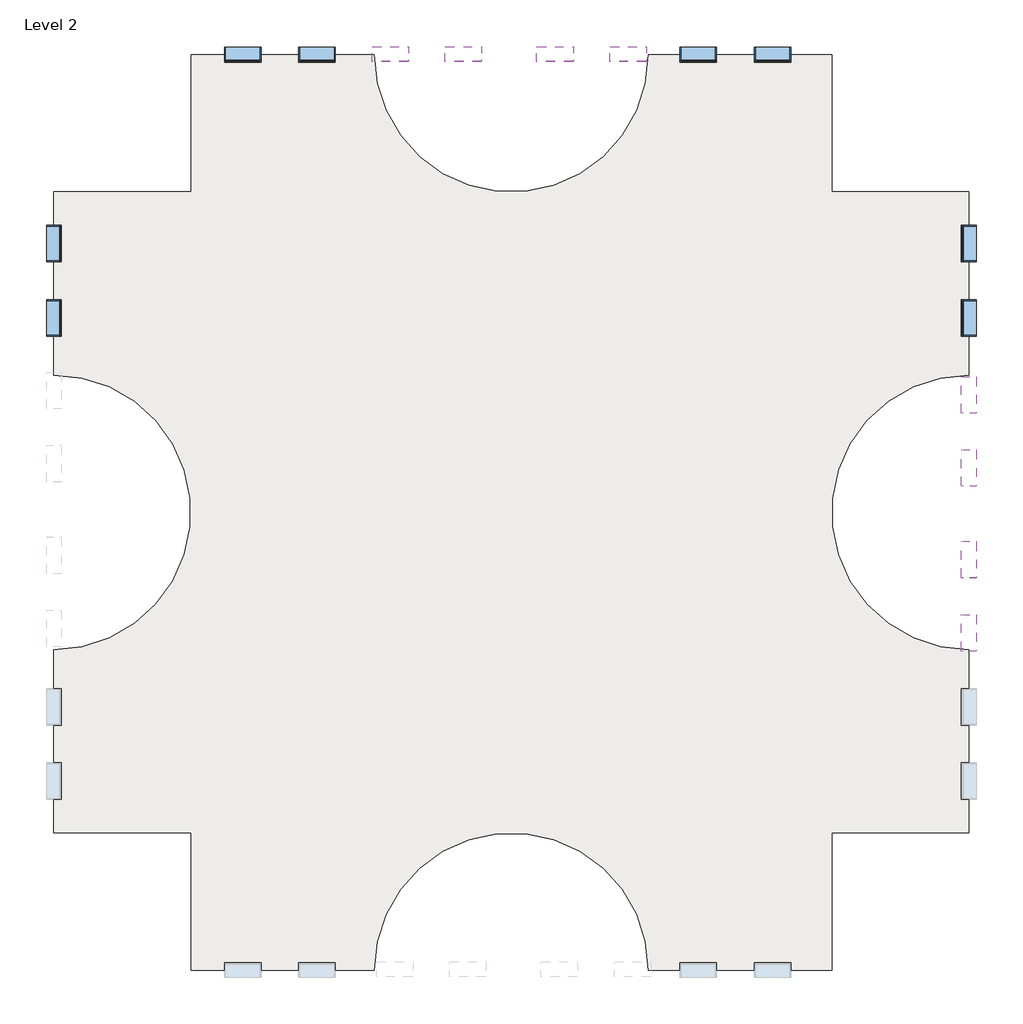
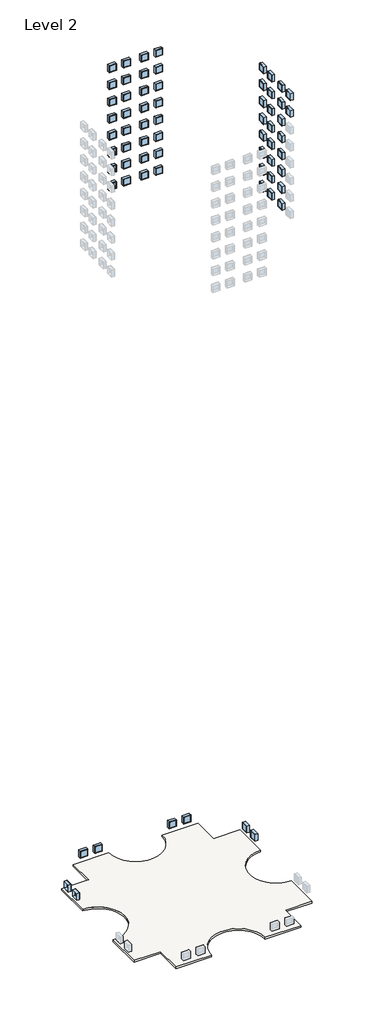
# One storey, part 2 of 2: 66 windows, 2 slabs.
"""IFC4 building model written with IfcOpenShell, lengths in millimetres."""

import ifcopenshell
import ifcopenshell.guid

model = None  # the IFC model being written
_history = None  # IfcOwnerHistory: only IFC2X3 demands one
_inside = {}  # id of a spatial element -> (the spatial element, [elements in it])
_under = {}  # id of a project, library or spatial element -> (it, [spatial elements below it])
_declared = {}  # id of a project -> (the project, [libraries it declares])
_typed = {}  # id of a type object -> (the type object, [elements of that type])
_made_of = {}  # id of a material, layer set ... -> (it, [elements and type objects made of it])


def new_model(schema):
    """Start an empty IFC model of exactly this schema.

    Asked for "IFC4X3", IfcOpenShell would pick the latest addendum, in which some entities
    have other attributes; the version numbers below select the first issue.
    IFC2X3 requires an IfcOwnerHistory on every rooted entity: one is made here for all.
    """
    global model, _history
    if schema == "IFC4X3":
        model = ifcopenshell.file(schema_version=(4, 3, 0, 0))
    else:
        model = ifcopenshell.file(schema=schema)
    _inside.clear()
    _under.clear()
    _declared.clear()
    _typed.clear()
    _made_of.clear()
    _history = None
    if model.schema == "IFC2X3":
        org = make("IfcOrganization", Name="unknown")
        user = make(
            "IfcPersonAndOrganization",
            ThePerson=make("IfcPerson", FamilyName="unknown"),
            TheOrganization=org,
        )
        app = make(
            "IfcApplication",
            ApplicationDeveloper=org,
            Version="unknown",
            ApplicationFullName="unknown",
            ApplicationIdentifier="unknown",
        )
        _history = make(
            "IfcOwnerHistory",
            OwningUser=user,
            OwningApplication=app,
            ChangeAction="ADDED",
            CreationDate=0,
        )
    return model


def make(cls, **values):
    """One entity of the class cls with the attributes given. An attribute that is None is left unset."""
    return model.create_entity(
        cls, **{name: value for name, value in values.items() if value is not None}
    )


def rooted(cls, **values):
    """An entity with a GlobalId (a new one), such as an element, a storey or a relation."""
    return make(cls, GlobalId=ifcopenshell.guid.new(), OwnerHistory=_history, **values)


def si_unit(unit_type, name, prefix=None):
    """IfcSIUnit, for example si_unit("LENGTHUNIT", "METRE", prefix="MILLI")."""
    return make("IfcSIUnit", UnitType=unit_type, Prefix=prefix, Name=name)


def assignment(units):
    """IfcUnitAssignment: the units of a project."""
    return None if units is None else make("IfcUnitAssignment", Units=units)


def point(xyz):
    """IfcCartesianPoint."""
    return None if xyz is None else make("IfcCartesianPoint", Coordinates=xyz)


def direction(xyz):
    """IfcDirection."""
    return None if xyz is None else make("IfcDirection", DirectionRatios=xyz)


def frame(location, z_axis=None, x_axis=None):
    """IfcAxis2Placement3D, a coordinate frame: its origin and axes. An axis left out is left unset."""
    return make(
        "IfcAxis2Placement3D",
        Location=point(location),
        Axis=direction(z_axis),
        RefDirection=direction(x_axis),
    )


def frame_2d(location, x_axis=None):
    """IfcAxis2Placement2D, a coordinate frame in the plane: its origin and x axis."""
    return make(
        "IfcAxis2Placement2D", Location=point(location), RefDirection=direction(x_axis)
    )


def origin():
    """The frame at (0, 0, 0) with its axes left unset."""
    return frame((0.0, 0.0, 0.0))


def place(relative_to, where):
    """IfcLocalPlacement: puts the frame where relative to a parent placement (None: the world)."""
    return make(
        "IfcLocalPlacement", PlacementRelTo=relative_to, RelativePlacement=where
    )


def context(
    kind, dimensions, precision=None, world=None, true_north=None, identifier=None
):
    """IfcGeometricRepresentationContext, for example the 3D "Model" context."""
    return make(
        "IfcGeometricRepresentationContext",
        ContextIdentifier=identifier,
        ContextType=kind,
        CoordinateSpaceDimension=dimensions,
        Precision=precision,
        WorldCoordinateSystem=world,
        TrueNorth=true_north,
    )


def project(units=None, contexts=None):
    """IfcProject with its units and contexts."""
    return rooted(
        "IfcProject",
        Name="project",
        RepresentationContexts=contexts,
        UnitsInContext=assignment(units),
    )


def spatial(cls, under=None, at=None, **own):
    """A site, building, storey or space (cls), placed at a placement, below another one or the project."""
    s = rooted(cls, ObjectPlacement=at, **own)
    if under is not None:
        _under.setdefault(under.id(), (under, []))[1].append(s)
    return s


def polyline(points):
    """IfcPolyline through the points."""
    return make("IfcPolyline", Points=[point(p) for p in points])


def circle_curve(where, radius):
    """IfcCircle in the frame where."""
    return make("IfcCircle", Position=where, Radius=radius)


def trimmed(basis, trim1, trim2, sense, master):
    """IfcTrimmedCurve: the piece of a basis curve between two trims."""
    return make(
        "IfcTrimmedCurve",
        BasisCurve=basis,
        Trim1=trim1,
        Trim2=trim2,
        SenseAgreement=sense,
        MasterRepresentation=master,
    )


def segment(curve, same_sense, transition):
    """IfcCompositeCurveSegment."""
    return make(
        "IfcCompositeCurveSegment",
        Transition=transition,
        SameSense=same_sense,
        ParentCurve=curve,
    )


def composite_curve(segments, self_intersect=None):
    """IfcCompositeCurve: segments joined end to end."""
    return make("IfcCompositeCurve", Segments=segments, SelfIntersect=self_intersect)


def outline(outer, holes=None, kind="AREA"):
    """IfcArbitraryClosedProfileDef: a profile drawn as a closed curve; with holes, ...WithVoids."""
    if holes is None:
        return make("IfcArbitraryClosedProfileDef", ProfileType=kind, OuterCurve=outer)
    return make(
        "IfcArbitraryProfileDefWithVoids",
        ProfileType=kind,
        OuterCurve=outer,
        InnerCurves=holes,
    )


def extrude(swept, where, along, depth):
    """IfcExtrudedAreaSolid: the profile swept, set in the frame where, extruded along a direction by depth."""
    return make(
        "IfcExtrudedAreaSolid",
        SweptArea=swept,
        Position=where,
        ExtrudedDirection=direction(along),
        Depth=depth,
    )


def shape(context_of_items, identifier, shape_type, items):
    """IfcShapeRepresentation: the items that make up one representation, for example the "Body"."""
    return make(
        "IfcShapeRepresentation",
        ContextOfItems=context_of_items,
        RepresentationIdentifier=identifier,
        RepresentationType=shape_type,
        Items=items,
    )


def source(mapping_origin, context_of_items, identifier, shape_type, items):
    """IfcRepresentationMap: a shape defined once, which mapped items show again and again."""
    return make(
        "IfcRepresentationMap",
        MappingOrigin=mapping_origin,
        MappedRepresentation=shape(context_of_items, identifier, shape_type, items),
    )


def transform(
    local_origin,
    x_axis=None,
    y_axis=None,
    z_axis=None,
    scale=None,
    scale2=None,
    scale3=None,
    uniform=True,
):
    """IfcCartesianTransformationOperator3D, or its non-uniform kind. x_axis, y_axis, z_axis: its Axis1, 2, 3."""
    if uniform:
        return make(
            "IfcCartesianTransformationOperator3D",
            Axis1=direction(x_axis),
            Axis2=direction(y_axis),
            LocalOrigin=point(local_origin),
            Scale=scale,
            Axis3=direction(z_axis),
        )
    return make(
        "IfcCartesianTransformationOperator3DnonUniform",
        Axis1=direction(x_axis),
        Axis2=direction(y_axis),
        LocalOrigin=point(local_origin),
        Scale=scale,
        Axis3=direction(z_axis),
        Scale2=scale2,
        Scale3=scale3,
    )


def mapped(mapping_source, mapping_target):
    """IfcMappedItem: shows the shape of a source again, moved by a transform."""
    return make(
        "IfcMappedItem", MappingSource=mapping_source, MappingTarget=mapping_target
    )


def made_of(thing, what):
    """Note that an element or type object is made of a material, layer set ...; save() writes the relation."""
    if what is not None:
        _made_of.setdefault(what.id(), (what, []))[1].append(thing)
    return thing


def element(
    cls,
    number,
    at=None,
    inside=None,
    cuts=None,
    type_object=None,
    material=None,
    context=None,
    identifier="Body",
    shape_type=None,
    held_by="IfcProductDefinitionShape",
    body=None,
    shapes=None,
    **own,
):
    """One element of the class cls, such as IfcWall. Its Tag is "e" and its number.

    at: its placement. inside: the storey or other place that contains it. cuts: it is an
    opening in that element (IfcRelVoidsElement). A single representation is given by context,
    identifier, shape_type and body (its items); several are given by shapes. held_by: the class
    of the entity that holds the representations. save() writes the other relations.
    """
    e = rooted(cls, Tag="e%d" % number, ObjectPlacement=at, **own)
    if body is not None:
        shapes = [shape(context, identifier, shape_type, body)]
    if shapes is not None:
        e.Representation = make(held_by, Representations=shapes)
    if inside is not None:
        _inside.setdefault(inside.id(), (inside, []))[1].append(e)
    if cuts is not None:
        rooted(
            "IfcRelVoidsElement", RelatingBuildingElement=cuts, RelatedOpeningElement=e
        )
    if type_object is not None:
        _typed.setdefault(type_object.id(), (type_object, []))[1].append(e)
    return made_of(e, material)


def aggregate(whole, parts):
    """IfcRelAggregates: a whole, such as a stair, and the parts it consists of."""
    return rooted("IfcRelAggregates", RelatingObject=whole, RelatedObjects=parts)


def save(model, path):
    """Write the relations noted so far, then the file.

    IfcRelAggregates (storeys below a building ...), IfcRelContainedInSpatialStructure (elements
    in a storey), IfcRelDefinesByType, IfcRelAssociatesMaterial and IfcRelDeclares: one each for
    every whole, place, type object, material and project.
    """
    for whole, parts in _under.values():
        aggregate(whole, parts)
    for where, things in _inside.values():
        rooted(
            "IfcRelContainedInSpatialStructure",
            RelatedElements=things,
            RelatingStructure=where,
        )
    for kind, things in _typed.values():
        rooted("IfcRelDefinesByType", RelatedObjects=things, RelatingType=kind)
    for what, things in _made_of.values():
        rooted("IfcRelAssociatesMaterial", RelatedObjects=things, RelatingMaterial=what)
    for by, libraries in _declared.values():
        rooted("IfcRelDeclares", RelatingContext=by, RelatedDefinitions=libraries)
    model.write(path)


def window_d0035ecf(model_context):
    return source(origin(), model_context, "Body", "SweptSolid", [
        extrude(outline(polyline([(508.0, 200.025), (-584.2, 200.025), (-584.2, 212.725), (508.0, 212.725), (508.0, 200.025)])), frame((0.0, 0.0, 977.9), z_axis=(0.0, 0.0, 1.0), x_axis=(1.0, 0.0, 0.0)), (0.0, 0.0, 1.0), 1092.2),
        extrude(outline(polyline([(2114.55, -628.65), (933.45, -628.65), (933.45, 552.45), (2114.55, 552.45), (2114.55, -628.65)]), holes=[polyline([(2070.1, -584.2), (2070.1, 508.0), (977.9, 508.0), (977.9, -584.2), (2070.1, -584.2)])]), frame((0.0, 184.15, 0.0), z_axis=(0.0, 1.0, 0.0), x_axis=(0.0, 0.0, 1.0)), (0.0, 0.0, 1.0), 44.45),
        extrude(outline(polyline([(2133.6, -647.7), (914.4, -647.7), (914.4, 571.5), (2133.6, 571.5), (2133.6, -647.7)]), holes=[polyline([(2101.85, -615.95), (2101.85, 539.75), (946.15, 539.75), (946.15, -615.95), (2101.85, -615.95)])]), frame((0.0, -247.65, 0.0), z_axis=(0.0, 1.0, 0.0), x_axis=(0.0, 0.0, 1.0)), (0.0, 0.0, 1.0), 431.8),
        extrude(outline(polyline([(2133.6, 571.5), (2133.6, -647.7), (914.4, -647.7), (914.4, 571.5), (2133.6, 571.5)]), holes=[polyline([(2114.55, 552.45), (933.45, 552.45), (933.45, -628.65), (2114.55, -628.65), (2114.55, 552.45)])]), frame((0.0, 184.15, 0.0), z_axis=(0.0, 1.0, 0.0), x_axis=(0.0, 0.0, 1.0)), (0.0, 0.0, 1.0), 63.5),
    ])


def window_d434eb62(model_context):
    return source(origin(), model_context, "Body", "SweptSolid", [
        extrude(outline(polyline([(508.0, -200.025), (508.0, -212.725), (-584.2, -212.725), (-584.2, -200.025), (508.0, -200.025)])), frame((0.0, 0.0, 977.9), z_axis=(0.0, 0.0, 1.0), x_axis=(1.0, 0.0, 0.0)), (0.0, 0.0, 1.0), 1092.2),
        extrude(outline(polyline([(2114.55, -628.65), (933.45, -628.65), (933.45, 552.45), (2114.55, 552.45), (2114.55, -628.65)]), holes=[polyline([(2070.1, -584.2), (2070.1, 508.0), (977.9, 508.0), (977.9, -584.2), (2070.1, -584.2)])]), frame((0.0, -228.6, 0.0), z_axis=(0.0, 1.0, 0.0), x_axis=(0.0, 0.0, 1.0)), (0.0, 0.0, 1.0), 44.45),
        extrude(outline(polyline([(2133.6, -647.7), (914.4, -647.7), (914.4, 571.5), (2133.6, 571.5), (2133.6, -647.7)]), holes=[polyline([(2101.85, -615.95), (2101.85, 539.75), (946.15, 539.75), (946.15, -615.95), (2101.85, -615.95)])]), frame((0.0, -184.15, 0.0), z_axis=(0.0, 1.0, 0.0), x_axis=(0.0, 0.0, 1.0)), (0.0, 0.0, 1.0), 431.8),
        extrude(outline(polyline([(2133.6, 571.5), (2133.6, -647.7), (914.4, -647.7), (914.4, 571.5), (2133.6, 571.5)]), holes=[polyline([(2114.55, 552.45), (933.45, 552.45), (933.45, -628.65), (2114.55, -628.65), (2114.55, 552.45)])]), frame((0.0, -247.65, 0.0), z_axis=(0.0, 1.0, 0.0), x_axis=(0.0, 0.0, 1.0)), (0.0, 0.0, 1.0), 63.5),
    ])


model = new_model("IFC4")

# Units and contexts
model_context = context("Model", 3, world=origin())
ifc_project = project(units=[si_unit("LENGTHUNIT", "METRE", prefix="MILLI")], contexts=[model_context])

# Site, building, storey
site = spatial("IfcSite", under=ifc_project)
building = spatial("IfcBuilding", under=site)
storey = spatial("IfcBuildingStorey", under=building, Name="Level 2", Elevation=3048.0)

# Slabs
placement = place(None, origin())
element("IfcSlab", 1, ObjectType="Generic - 12\"", at=placement, inside=storey, context=model_context, shape_type="SweptSolid", body=[
    extrude(outline(composite_curve([segment(polyline([(-7150.3629456, 4479.6634547), (-7150.3629456, 9051.6634547), (-1054.3629456, 9051.6634547)]), True, "CONTINUOUS"), segment(trimmed(circle_curve(frame_2d((3517.6370544, 9051.6634547)), 4572.0), [point((-1054.3629456, 9051.6634547))], [point((8089.6370544, 9051.6634547))], True, "CARTESIAN"), True, "CONTINUOUS"), segment(polyline([(8089.6370544, 9051.6634547), (14185.6370544, 9051.6634547), (14185.6370544, 4479.6634547), (18757.6370544, 4479.6634547), (18757.6370544, -1616.3365453)]), True, "CONTINUOUS"), segment(trimmed(circle_curve(frame_2d((18757.6370544, -6188.3365453)), 4572.0), [point((18757.6370544, -1616.3365453))], [point((18757.6370544, -10760.3365453))], True, "CARTESIAN"), True, "CONTINUOUS"), segment(polyline([(18757.6370544, -10760.3365453), (18757.6370544, -16856.3365453), (14185.6370544, -16856.3365453), (14185.6370544, -21428.3365453), (8089.6370544, -21428.3365453)]), True, "CONTINUOUS"), segment(trimmed(circle_curve(frame_2d((3517.6370544, -21428.3365453)), 4572.0), [point((8089.6370544, -21428.3365453))], [point((-1054.3629456, -21428.3365453))], True, "CARTESIAN"), True, "CONTINUOUS"), segment(polyline([(-1054.3629456, -21428.3365453), (-7150.3629456, -21428.3365453), (-7150.3629456, -16856.3365453), (-11722.3629456, -16856.3365453), (-11722.3629456, -10760.3365453)]), True, "CONTINUOUS"), segment(trimmed(circle_curve(frame_2d((-11722.3629456, -6188.3365453)), 4572.0), [point((-11722.3629456, -10760.3365453))], [point((-11722.3629456, -1616.3365453))], True, "CARTESIAN"), True, "CONTINUOUS"), segment(polyline([(-11722.3629456, -1616.3365453), (-11722.3629456, 4479.6634547), (-7150.3629456, 4479.6634547)]), True, "CONTINUOUS")], self_intersect=False)), frame((0.0, 0.0, 2743.2), z_axis=(0.0, 0.0, 1.0), x_axis=(1.0, 0.0, 0.0)), (0.0, 0.0, 1.0), 304.8),
])
element("IfcSlab", 2, ObjectType="Generic - 12\"", at=placement, inside=storey, context=model_context, shape_type="SweptSolid", body=[
    extrude(outline(composite_curve([segment(polyline([(-7150.3629456, 4479.6634547), (-7150.3629456, 9051.6634547), (-1054.3629456, 9051.6634547)]), True, "CONTINUOUS"), segment(trimmed(circle_curve(frame_2d((3517.6370544, 9051.6634547)), 4572.0), [point((-1054.3629456, 9051.6634547))], [point((8089.6370544, 9051.6634547))], True, "CARTESIAN"), True, "CONTINUOUS"), segment(polyline([(8089.6370544, 9051.6634547), (14185.6370544, 9051.6634547), (14185.6370544, 4479.6634547), (18757.6370544, 4479.6634547), (18757.6370544, -1616.3365453)]), True, "CONTINUOUS"), segment(trimmed(circle_curve(frame_2d((18757.6370544, -6188.3365453)), 4572.0), [point((18757.6370544, -1616.3365453))], [point((18757.6370544, -10760.3365453))], True, "CARTESIAN"), True, "CONTINUOUS"), segment(polyline([(18757.6370544, -10760.3365453), (18757.6370544, -16856.3365453), (14185.6370544, -16856.3365453), (14185.6370544, -21428.3365453), (8089.6370544, -21428.3365453)]), True, "CONTINUOUS"), segment(trimmed(circle_curve(frame_2d((3517.6370544, -21428.3365453)), 4572.0), [point((8089.6370544, -21428.3365453))], [point((-1054.3629456, -21428.3365453))], True, "CARTESIAN"), True, "CONTINUOUS"), segment(polyline([(-1054.3629456, -21428.3365453), (-7150.3629456, -21428.3365453), (-7150.3629456, -16856.3365453), (-11722.3629456, -16856.3365453), (-11722.3629456, -10760.3365453)]), True, "CONTINUOUS"), segment(trimmed(circle_curve(frame_2d((-11722.3629456, -6188.3365453)), 4572.0), [point((-11722.3629456, -10760.3365453))], [point((-11722.3629456, -1616.3365453))], True, "CARTESIAN"), True, "CONTINUOUS"), segment(polyline([(-11722.3629456, -1616.3365453), (-11722.3629456, 4479.6634547), (-7150.3629456, 4479.6634547)]), True, "CONTINUOUS")], self_intersect=False)), frame((0.0, 0.0, 2743.2), z_axis=(0.0, 0.0, 1.0), x_axis=(1.0, 0.0, 0.0)), (0.0, 0.0, 1.0), 304.8),
])

# Windows
window_shape = window_d0035ecf(model_context)
element("IfcWindow", 3, ObjectType="Fixed : 48\" x 48\"", at=placement, inside=storey, context=model_context, shape_type="MappedRepresentation", body=[
    mapped(window_shape, transform((-11719.1879456, 247.3884547, 3048.0), x_axis=(0.0, -1.0, 0.0), y_axis=(1.0, 0.0, 0.0), z_axis=(0.0, 0.0, 1.0))),
])
element("IfcWindow", 4, ObjectType="Fixed : 48\" x 48\"", at=placement, inside=storey, context=model_context, shape_type="MappedRepresentation", body=[
    mapped(window_shape, transform((-5469.1993281, 9048.4884547, 3048.0), x_axis=(-1.0, 0.0, 0.0), y_axis=(0.0, -1.0, 0.0), z_axis=(0.0, 0.0, 1.0))),
])
element("IfcWindow", 5, ObjectType="Fixed : 48\" x 48\"", at=placement, inside=storey, context=model_context, shape_type="MappedRepresentation", body=[
    mapped(window_shape, transform((18754.4620544, 2798.4998372, 3048.0), x_axis=(0.0, 1.0, 0.0), y_axis=(-1.0, 0.0, 0.0), z_axis=(0.0, 0.0, 1.0))),
])
element("IfcWindow", 6, ObjectType="Fixed : 48\" x 48\"", at=placement, inside=storey, context=model_context, shape_type="MappedRepresentation", body=[
    mapped(window_shape, transform((9705.7120544, 9048.4884547, 3048.0), x_axis=(-1.0, 0.0, 0.0), y_axis=(0.0, -1.0, 0.0), z_axis=(0.0, 0.0, 1.0))),
])
element("IfcWindow", 7, ObjectType="Fixed : 48\" x 48\"", at=placement, inside=storey, context=model_context, shape_type="MappedRepresentation", body=[
    mapped(window_shape, transform((18754.4620544, -7747.2615453, 121920.0), x_axis=(0.0, 1.0, 0.0), y_axis=(-1.0, 0.0, 0.0), z_axis=(0.0, 0.0, 1.0))),
])
element("IfcWindow", 8, ObjectType="Fixed : 48\" x 48\"", at=placement, inside=storey, context=model_context, shape_type="MappedRepresentation", body=[
    mapped(window_shape, transform((18754.4620544, -4699.2615453, 121920.0), x_axis=(0.0, 1.0, 0.0), y_axis=(-1.0, 0.0, 0.0), z_axis=(0.0, 0.0, 1.0))),
])
element("IfcWindow", 9, ObjectType="Fixed : 48\" x 48\"", at=placement, inside=storey, context=model_context, shape_type="MappedRepresentation", body=[
    mapped(window_shape, transform((18754.4620544, -2260.8615453, 121920.0), x_axis=(0.0, 1.0, 0.0), y_axis=(-1.0, 0.0, 0.0), z_axis=(0.0, 0.0, 1.0))),
])
element("IfcWindow", 10, ObjectType="Fixed : 48\" x 48\"", at=placement, inside=storey, context=model_context, shape_type="MappedRepresentation", body=[
    mapped(window_shape, transform((18754.4620544, -7747.2615453, 124968.0), x_axis=(0.0, 1.0, 0.0), y_axis=(-1.0, 0.0, 0.0), z_axis=(0.0, 0.0, 1.0))),
])
element("IfcWindow", 11, ObjectType="Fixed : 48\" x 48\"", at=placement, inside=storey, context=model_context, shape_type="MappedRepresentation", body=[
    mapped(window_shape, transform((18754.4620544, -4699.2615453, 124968.0), x_axis=(0.0, 1.0, 0.0), y_axis=(-1.0, 0.0, 0.0), z_axis=(0.0, 0.0, 1.0))),
])
element("IfcWindow", 12, ObjectType="Fixed : 48\" x 48\"", at=placement, inside=storey, context=model_context, shape_type="MappedRepresentation", body=[
    mapped(window_shape, transform((18754.4620544, -2260.8615453, 124968.0), x_axis=(0.0, 1.0, 0.0), y_axis=(-1.0, 0.0, 0.0), z_axis=(0.0, 0.0, 1.0))),
])
element("IfcWindow", 13, ObjectType="Fixed : 48\" x 48\"", at=placement, inside=storey, context=model_context, shape_type="MappedRepresentation", body=[
    mapped(window_shape, transform((18754.4620544, -7747.2615453, 128016.0), x_axis=(0.0, 1.0, 0.0), y_axis=(-1.0, 0.0, 0.0), z_axis=(0.0, 0.0, 1.0))),
])
element("IfcWindow", 14, ObjectType="Fixed : 48\" x 48\"", at=placement, inside=storey, context=model_context, shape_type="MappedRepresentation", body=[
    mapped(window_shape, transform((18754.4620544, -4699.2615453, 128016.0), x_axis=(0.0, 1.0, 0.0), y_axis=(-1.0, 0.0, 0.0), z_axis=(0.0, 0.0, 1.0))),
])
element("IfcWindow", 15, ObjectType="Fixed : 48\" x 48\"", at=placement, inside=storey, context=model_context, shape_type="MappedRepresentation", body=[
    mapped(window_shape, transform((18754.4620544, -2260.8615453, 128016.0), x_axis=(0.0, 1.0, 0.0), y_axis=(-1.0, 0.0, 0.0), z_axis=(0.0, 0.0, 1.0))),
])
element("IfcWindow", 16, ObjectType="Fixed : 48\" x 48\"", at=placement, inside=storey, context=model_context, shape_type="MappedRepresentation", body=[
    mapped(window_shape, transform((18754.4620544, -7747.2615453, 131064.0), x_axis=(0.0, 1.0, 0.0), y_axis=(-1.0, 0.0, 0.0), z_axis=(0.0, 0.0, 1.0))),
])
element("IfcWindow", 17, ObjectType="Fixed : 48\" x 48\"", at=placement, inside=storey, context=model_context, shape_type="MappedRepresentation", body=[
    mapped(window_shape, transform((18754.4620544, -4699.2615453, 131064.0), x_axis=(0.0, 1.0, 0.0), y_axis=(-1.0, 0.0, 0.0), z_axis=(0.0, 0.0, 1.0))),
])
element("IfcWindow", 18, ObjectType="Fixed : 48\" x 48\"", at=placement, inside=storey, context=model_context, shape_type="MappedRepresentation", body=[
    mapped(window_shape, transform((18754.4620544, -2260.8615453, 131064.0), x_axis=(0.0, 1.0, 0.0), y_axis=(-1.0, 0.0, 0.0), z_axis=(0.0, 0.0, 1.0))),
])
element("IfcWindow", 19, ObjectType="Fixed : 48\" x 48\"", at=placement, inside=storey, context=model_context, shape_type="MappedRepresentation", body=[
    mapped(window_shape, transform((18754.4620544, -7747.2615453, 134112.0), x_axis=(0.0, 1.0, 0.0), y_axis=(-1.0, 0.0, 0.0), z_axis=(0.0, 0.0, 1.0))),
])
element("IfcWindow", 20, ObjectType="Fixed : 48\" x 48\"", at=placement, inside=storey, context=model_context, shape_type="MappedRepresentation", body=[
    mapped(window_shape, transform((18754.4620544, -4699.2615453, 134112.0), x_axis=(0.0, 1.0, 0.0), y_axis=(-1.0, 0.0, 0.0), z_axis=(0.0, 0.0, 1.0))),
])
element("IfcWindow", 21, ObjectType="Fixed : 48\" x 48\"", at=placement, inside=storey, context=model_context, shape_type="MappedRepresentation", body=[
    mapped(window_shape, transform((18754.4620544, -2260.8615453, 134112.0), x_axis=(0.0, 1.0, 0.0), y_axis=(-1.0, 0.0, 0.0), z_axis=(0.0, 0.0, 1.0))),
])
element("IfcWindow", 22, ObjectType="Fixed : 48\" x 48\"", at=placement, inside=storey, context=model_context, shape_type="MappedRepresentation", body=[
    mapped(window_shape, transform((18754.4620544, -7747.2615453, 137160.0), x_axis=(0.0, 1.0, 0.0), y_axis=(-1.0, 0.0, 0.0), z_axis=(0.0, 0.0, 1.0))),
])
element("IfcWindow", 23, ObjectType="Fixed : 48\" x 48\"", at=placement, inside=storey, context=model_context, shape_type="MappedRepresentation", body=[
    mapped(window_shape, transform((18754.4620544, -4699.2615453, 137160.0), x_axis=(0.0, 1.0, 0.0), y_axis=(-1.0, 0.0, 0.0), z_axis=(0.0, 0.0, 1.0))),
])
element("IfcWindow", 24, ObjectType="Fixed : 48\" x 48\"", at=placement, inside=storey, context=model_context, shape_type="MappedRepresentation", body=[
    mapped(window_shape, transform((18754.4620544, -2260.8615453, 137160.0), x_axis=(0.0, 1.0, 0.0), y_axis=(-1.0, 0.0, 0.0), z_axis=(0.0, 0.0, 1.0))),
])
element("IfcWindow", 25, ObjectType="Fixed : 48\" x 48\"", at=placement, inside=storey, context=model_context, shape_type="MappedRepresentation", body=[
    mapped(window_shape, transform((18754.4620544, -10185.6615453, 140208.0), x_axis=(0.0, 1.0, 0.0), y_axis=(-1.0, 0.0, 0.0), z_axis=(0.0, 0.0, 1.0))),
])
element("IfcWindow", 26, ObjectType="Fixed : 48\" x 48\"", at=placement, inside=storey, context=model_context, shape_type="MappedRepresentation", body=[
    mapped(window_shape, transform((18754.4620544, -7747.2615453, 140208.0), x_axis=(0.0, 1.0, 0.0), y_axis=(-1.0, 0.0, 0.0), z_axis=(0.0, 0.0, 1.0))),
])
element("IfcWindow", 27, ObjectType="Fixed : 48\" x 48\"", at=placement, inside=storey, context=model_context, shape_type="MappedRepresentation", body=[
    mapped(window_shape, transform((18754.4620544, -4699.2615453, 140208.0), x_axis=(0.0, 1.0, 0.0), y_axis=(-1.0, 0.0, 0.0), z_axis=(0.0, 0.0, 1.0))),
])
element("IfcWindow", 28, ObjectType="Fixed : 48\" x 48\"", at=placement, inside=storey, context=model_context, shape_type="MappedRepresentation", body=[
    mapped(window_shape, transform((18754.4620544, -2260.8615453, 140208.0), x_axis=(0.0, 1.0, 0.0), y_axis=(-1.0, 0.0, 0.0), z_axis=(0.0, 0.0, 1.0))),
])
element("IfcWindow", 29, ObjectType="Fixed : 48\" x 48\"", at=placement, inside=storey, context=model_context, shape_type="MappedRepresentation", body=[
    mapped(window_shape, transform((18754.4620544, -10185.6615453, 143256.0), x_axis=(0.0, 1.0, 0.0), y_axis=(-1.0, 0.0, 0.0), z_axis=(0.0, 0.0, 1.0))),
])
element("IfcWindow", 30, ObjectType="Fixed : 48\" x 48\"", at=placement, inside=storey, context=model_context, shape_type="MappedRepresentation", body=[
    mapped(window_shape, transform((18754.4620544, -7747.2615453, 143256.0), x_axis=(0.0, 1.0, 0.0), y_axis=(-1.0, 0.0, 0.0), z_axis=(0.0, 0.0, 1.0))),
])
element("IfcWindow", 31, ObjectType="Fixed : 48\" x 48\"", at=placement, inside=storey, context=model_context, shape_type="MappedRepresentation", body=[
    mapped(window_shape, transform((18754.4620544, -4699.2615453, 143256.0), x_axis=(0.0, 1.0, 0.0), y_axis=(-1.0, 0.0, 0.0), z_axis=(0.0, 0.0, 1.0))),
])
element("IfcWindow", 32, ObjectType="Fixed : 48\" x 48\"", at=placement, inside=storey, context=model_context, shape_type="MappedRepresentation", body=[
    mapped(window_shape, transform((18754.4620544, -2260.8615453, 143256.0), x_axis=(0.0, 1.0, 0.0), y_axis=(-1.0, 0.0, 0.0), z_axis=(0.0, 0.0, 1.0))),
])
window_2_shape = window_d434eb62(model_context)
element("IfcWindow", 33, ObjectType="Fixed : 48\" x 48\"", at=placement, inside=storey, context=model_context, shape_type="MappedRepresentation", body=[
    mapped(window_2_shape, transform((-11719.1879456, 2798.4998372, 3048.0), x_axis=(0.0, 1.0, 0.0), y_axis=(-1.0, 0.0, 0.0), z_axis=(0.0, 0.0, 1.0))),
])
element("IfcWindow", 34, ObjectType="Fixed : 48\" x 48\"", at=placement, inside=storey, context=model_context, shape_type="MappedRepresentation", body=[
    mapped(window_2_shape, transform((-2918.0879456, 9048.4884547, 3048.0), x_axis=(1.0, 0.0, 0.0), y_axis=(0.0, 1.0, 0.0), z_axis=(0.0, 0.0, 1.0))),
])
element("IfcWindow", 35, ObjectType="Fixed : 48\" x 48\"", at=placement, inside=storey, context=model_context, shape_type="MappedRepresentation", body=[
    mapped(window_2_shape, transform((18754.4620544, 247.3884547, 3048.0), x_axis=(0.0, -1.0, 0.0), y_axis=(1.0, 0.0, 0.0), z_axis=(0.0, 0.0, 1.0))),
])
element("IfcWindow", 36, ObjectType="Fixed : 48\" x 48\"", at=placement, inside=storey, context=model_context, shape_type="MappedRepresentation", body=[
    mapped(window_2_shape, transform((12256.8234368, 9048.4884547, 3048.0), x_axis=(1.0, 0.0, 0.0), y_axis=(0.0, 1.0, 0.0), z_axis=(0.0, 0.0, 1.0))),
])
element("IfcWindow", 37, ObjectType="Fixed : 48\" x 48\"", at=placement, inside=storey, context=model_context, shape_type="MappedRepresentation", body=[
    mapped(window_2_shape, transform((-479.6879456, 9048.4884547, 121920.0), x_axis=(1.0, 0.0, 0.0), y_axis=(0.0, 1.0, 0.0), z_axis=(0.0, 0.0, 1.0))),
])
element("IfcWindow", 38, ObjectType="Fixed : 48\" x 48\"", at=placement, inside=storey, context=model_context, shape_type="MappedRepresentation", body=[
    mapped(window_2_shape, transform((1958.7120544, 9048.4884547, 121920.0), x_axis=(1.0, 0.0, 0.0), y_axis=(0.0, 1.0, 0.0), z_axis=(0.0, 0.0, 1.0))),
])
element("IfcWindow", 39, ObjectType="Fixed : 48\" x 48\"", at=placement, inside=storey, context=model_context, shape_type="MappedRepresentation", body=[
    mapped(window_2_shape, transform((5006.7120544, 9048.4884547, 121920.0), x_axis=(1.0, 0.0, 0.0), y_axis=(0.0, 1.0, 0.0), z_axis=(0.0, 0.0, 1.0))),
])
element("IfcWindow", 40, ObjectType="Fixed : 48\" x 48\"", at=placement, inside=storey, context=model_context, shape_type="MappedRepresentation", body=[
    mapped(window_2_shape, transform((7445.1120544, 9048.4884547, 121920.0), x_axis=(1.0, 0.0, 0.0), y_axis=(0.0, 1.0, 0.0), z_axis=(0.0, 0.0, 1.0))),
])
element("IfcWindow", 41, ObjectType="Fixed : 48\" x 48\"", at=placement, inside=storey, context=model_context, shape_type="MappedRepresentation", body=[
    mapped(window_2_shape, transform((-479.6879456, 9048.4884547, 124968.0), x_axis=(1.0, 0.0, 0.0), y_axis=(0.0, 1.0, 0.0), z_axis=(0.0, 0.0, 1.0))),
])
element("IfcWindow", 42, ObjectType="Fixed : 48\" x 48\"", at=placement, inside=storey, context=model_context, shape_type="MappedRepresentation", body=[
    mapped(window_2_shape, transform((1958.7120544, 9048.4884547, 124968.0), x_axis=(1.0, 0.0, 0.0), y_axis=(0.0, 1.0, 0.0), z_axis=(0.0, 0.0, 1.0))),
])
element("IfcWindow", 43, ObjectType="Fixed : 48\" x 48\"", at=placement, inside=storey, context=model_context, shape_type="MappedRepresentation", body=[
    mapped(window_2_shape, transform((5006.7120544, 9048.4884547, 124968.0), x_axis=(1.0, 0.0, 0.0), y_axis=(0.0, 1.0, 0.0), z_axis=(0.0, 0.0, 1.0))),
])
element("IfcWindow", 44, ObjectType="Fixed : 48\" x 48\"", at=placement, inside=storey, context=model_context, shape_type="MappedRepresentation", body=[
    mapped(window_2_shape, transform((7445.1120544, 9048.4884547, 124968.0), x_axis=(1.0, 0.0, 0.0), y_axis=(0.0, 1.0, 0.0), z_axis=(0.0, 0.0, 1.0))),
])
element("IfcWindow", 45, ObjectType="Fixed : 48\" x 48\"", at=placement, inside=storey, context=model_context, shape_type="MappedRepresentation", body=[
    mapped(window_2_shape, transform((-479.6879456, 9048.4884547, 128016.0), x_axis=(1.0, 0.0, 0.0), y_axis=(0.0, 1.0, 0.0), z_axis=(0.0, 0.0, 1.0))),
])
element("IfcWindow", 46, ObjectType="Fixed : 48\" x 48\"", at=placement, inside=storey, context=model_context, shape_type="MappedRepresentation", body=[
    mapped(window_2_shape, transform((1958.7120544, 9048.4884547, 128016.0), x_axis=(1.0, 0.0, 0.0), y_axis=(0.0, 1.0, 0.0), z_axis=(0.0, 0.0, 1.0))),
])
element("IfcWindow", 47, ObjectType="Fixed : 48\" x 48\"", at=placement, inside=storey, context=model_context, shape_type="MappedRepresentation", body=[
    mapped(window_2_shape, transform((5006.7120544, 9048.4884547, 128016.0), x_axis=(1.0, 0.0, 0.0), y_axis=(0.0, 1.0, 0.0), z_axis=(0.0, 0.0, 1.0))),
])
element("IfcWindow", 48, ObjectType="Fixed : 48\" x 48\"", at=placement, inside=storey, context=model_context, shape_type="MappedRepresentation", body=[
    mapped(window_2_shape, transform((7445.1120544, 9048.4884547, 128016.0), x_axis=(1.0, 0.0, 0.0), y_axis=(0.0, 1.0, 0.0), z_axis=(0.0, 0.0, 1.0))),
])
element("IfcWindow", 49, ObjectType="Fixed : 48\" x 48\"", at=placement, inside=storey, context=model_context, shape_type="MappedRepresentation", body=[
    mapped(window_2_shape, transform((-479.6879456, 9048.4884547, 131064.0), x_axis=(1.0, 0.0, 0.0), y_axis=(0.0, 1.0, 0.0), z_axis=(0.0, 0.0, 1.0))),
])
element("IfcWindow", 50, ObjectType="Fixed : 48\" x 48\"", at=placement, inside=storey, context=model_context, shape_type="MappedRepresentation", body=[
    mapped(window_2_shape, transform((1958.7120544, 9048.4884547, 131064.0), x_axis=(1.0, 0.0, 0.0), y_axis=(0.0, 1.0, 0.0), z_axis=(0.0, 0.0, 1.0))),
])
element("IfcWindow", 51, ObjectType="Fixed : 48\" x 48\"", at=placement, inside=storey, context=model_context, shape_type="MappedRepresentation", body=[
    mapped(window_2_shape, transform((5006.7120544, 9048.4884547, 131064.0), x_axis=(1.0, 0.0, 0.0), y_axis=(0.0, 1.0, 0.0), z_axis=(0.0, 0.0, 1.0))),
])
element("IfcWindow", 52, ObjectType="Fixed : 48\" x 48\"", at=placement, inside=storey, context=model_context, shape_type="MappedRepresentation", body=[
    mapped(window_2_shape, transform((7445.1120544, 9048.4884547, 131064.0), x_axis=(1.0, 0.0, 0.0), y_axis=(0.0, 1.0, 0.0), z_axis=(0.0, 0.0, 1.0))),
])
element("IfcWindow", 53, ObjectType="Fixed : 48\" x 48\"", at=placement, inside=storey, context=model_context, shape_type="MappedRepresentation", body=[
    mapped(window_2_shape, transform((-479.6879456, 9048.4884547, 134112.0), x_axis=(1.0, 0.0, 0.0), y_axis=(0.0, 1.0, 0.0), z_axis=(0.0, 0.0, 1.0))),
])
element("IfcWindow", 54, ObjectType="Fixed : 48\" x 48\"", at=placement, inside=storey, context=model_context, shape_type="MappedRepresentation", body=[
    mapped(window_2_shape, transform((1958.7120544, 9048.4884547, 134112.0), x_axis=(1.0, 0.0, 0.0), y_axis=(0.0, 1.0, 0.0), z_axis=(0.0, 0.0, 1.0))),
])
element("IfcWindow", 55, ObjectType="Fixed : 48\" x 48\"", at=placement, inside=storey, context=model_context, shape_type="MappedRepresentation", body=[
    mapped(window_2_shape, transform((5006.7120544, 9048.4884547, 134112.0), x_axis=(1.0, 0.0, 0.0), y_axis=(0.0, 1.0, 0.0), z_axis=(0.0, 0.0, 1.0))),
])
element("IfcWindow", 56, ObjectType="Fixed : 48\" x 48\"", at=placement, inside=storey, context=model_context, shape_type="MappedRepresentation", body=[
    mapped(window_2_shape, transform((7445.1120544, 9048.4884547, 134112.0), x_axis=(1.0, 0.0, 0.0), y_axis=(0.0, 1.0, 0.0), z_axis=(0.0, 0.0, 1.0))),
])
element("IfcWindow", 57, ObjectType="Fixed : 48\" x 48\"", at=placement, inside=storey, context=model_context, shape_type="MappedRepresentation", body=[
    mapped(window_2_shape, transform((-479.6879456, 9048.4884547, 137160.0), x_axis=(1.0, 0.0, 0.0), y_axis=(0.0, 1.0, 0.0), z_axis=(0.0, 0.0, 1.0))),
])
element("IfcWindow", 58, ObjectType="Fixed : 48\" x 48\"", at=placement, inside=storey, context=model_context, shape_type="MappedRepresentation", body=[
    mapped(window_2_shape, transform((1958.7120544, 9048.4884547, 137160.0), x_axis=(1.0, 0.0, 0.0), y_axis=(0.0, 1.0, 0.0), z_axis=(0.0, 0.0, 1.0))),
])
element("IfcWindow", 59, ObjectType="Fixed : 48\" x 48\"", at=placement, inside=storey, context=model_context, shape_type="MappedRepresentation", body=[
    mapped(window_2_shape, transform((5006.7120544, 9048.4884547, 137160.0), x_axis=(1.0, 0.0, 0.0), y_axis=(0.0, 1.0, 0.0), z_axis=(0.0, 0.0, 1.0))),
])
element("IfcWindow", 60, ObjectType="Fixed : 48\" x 48\"", at=placement, inside=storey, context=model_context, shape_type="MappedRepresentation", body=[
    mapped(window_2_shape, transform((7445.1120544, 9048.4884547, 137160.0), x_axis=(1.0, 0.0, 0.0), y_axis=(0.0, 1.0, 0.0), z_axis=(0.0, 0.0, 1.0))),
])
element("IfcWindow", 61, ObjectType="Fixed : 48\" x 48\"", at=placement, inside=storey, context=model_context, shape_type="MappedRepresentation", body=[
    mapped(window_2_shape, transform((-479.6879456, 9048.4884547, 140208.0), x_axis=(1.0, 0.0, 0.0), y_axis=(0.0, 1.0, 0.0), z_axis=(0.0, 0.0, 1.0))),
])
element("IfcWindow", 62, ObjectType="Fixed : 48\" x 48\"", at=placement, inside=storey, context=model_context, shape_type="MappedRepresentation", body=[
    mapped(window_2_shape, transform((1958.7120544, 9048.4884547, 140208.0), x_axis=(1.0, 0.0, 0.0), y_axis=(0.0, 1.0, 0.0), z_axis=(0.0, 0.0, 1.0))),
])
element("IfcWindow", 63, ObjectType="Fixed : 48\" x 48\"", at=placement, inside=storey, context=model_context, shape_type="MappedRepresentation", body=[
    mapped(window_2_shape, transform((5006.7120544, 9048.4884547, 140208.0), x_axis=(1.0, 0.0, 0.0), y_axis=(0.0, 1.0, 0.0), z_axis=(0.0, 0.0, 1.0))),
])
element("IfcWindow", 64, ObjectType="Fixed : 48\" x 48\"", at=placement, inside=storey, context=model_context, shape_type="MappedRepresentation", body=[
    mapped(window_2_shape, transform((7445.1120544, 9048.4884547, 140208.0), x_axis=(1.0, 0.0, 0.0), y_axis=(0.0, 1.0, 0.0), z_axis=(0.0, 0.0, 1.0))),
])
element("IfcWindow", 65, ObjectType="Fixed : 48\" x 48\"", at=placement, inside=storey, context=model_context, shape_type="MappedRepresentation", body=[
    mapped(window_2_shape, transform((-479.6879456, 9048.4884547, 143256.0), x_axis=(1.0, 0.0, 0.0), y_axis=(0.0, 1.0, 0.0), z_axis=(0.0, 0.0, 1.0))),
])
element("IfcWindow", 66, ObjectType="Fixed : 48\" x 48\"", at=placement, inside=storey, context=model_context, shape_type="MappedRepresentation", body=[
    mapped(window_2_shape, transform((1958.7120544, 9048.4884547, 143256.0), x_axis=(1.0, 0.0, 0.0), y_axis=(0.0, 1.0, 0.0), z_axis=(0.0, 0.0, 1.0))),
])
element("IfcWindow", 67, ObjectType="Fixed : 48\" x 48\"", at=placement, inside=storey, context=model_context, shape_type="MappedRepresentation", body=[
    mapped(window_2_shape, transform((5006.7120544, 9048.4884547, 143256.0), x_axis=(1.0, 0.0, 0.0), y_axis=(0.0, 1.0, 0.0), z_axis=(0.0, 0.0, 1.0))),
])
element("IfcWindow", 68, ObjectType="Fixed : 48\" x 48\"", at=placement, inside=storey, context=model_context, shape_type="MappedRepresentation", body=[
    mapped(window_2_shape, transform((7445.1120544, 9048.4884547, 143256.0), x_axis=(1.0, 0.0, 0.0), y_axis=(0.0, 1.0, 0.0), z_axis=(0.0, 0.0, 1.0))),
])

save(model, "model.ifc")
